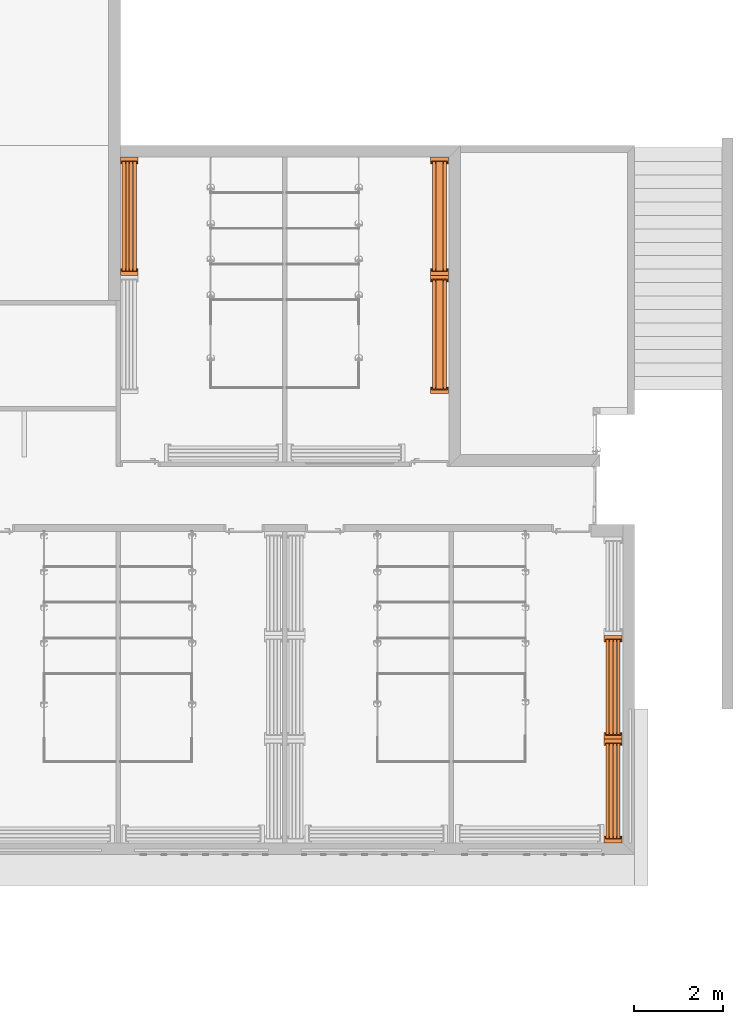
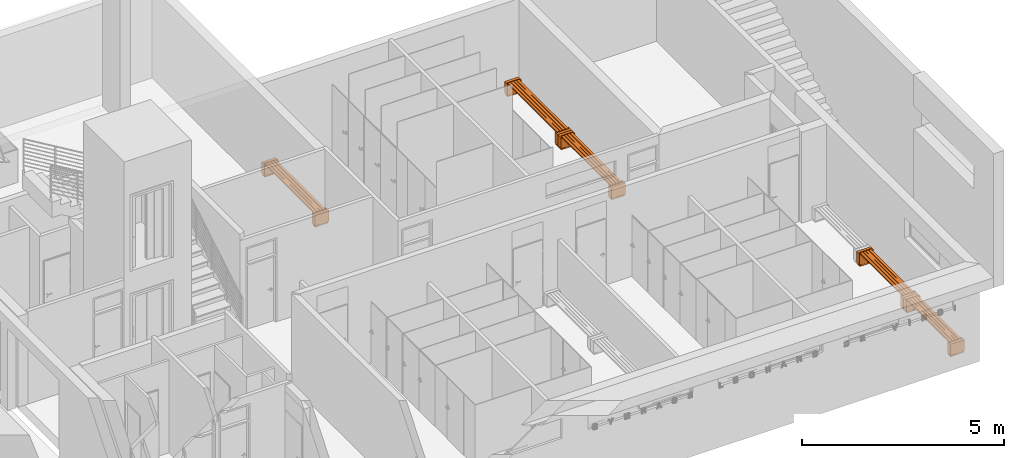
# One storey, part 44 of 45: 5 proxies.
"""IFC2X3 building model written with IfcOpenShell, lengths in metres."""

from ifc_helpers import new_model, entity, si_unit, converted_unit, money_unit, direction, frame, origin_with_axes, place, context, subcontext, project, spatial, faceted_brep, source, transform, mapped, material, type_object, element, save


model = new_model("IFC2X3")

# Units and contexts
model_context = context("Model", 3, precision=1e-05, world=origin_with_axes(), true_north=direction((0.0, 1.0)))
body_context = subcontext(model_context, "Body", "Model", "MODEL_VIEW")
ifc_project = project(units=[si_unit("LENGTHUNIT", "METRE"), si_unit("AREAUNIT", "SQUARE_METRE"), si_unit("VOLUMEUNIT", "CUBIC_METRE"), converted_unit("PLANEANGLEUNIT", "DEGREE", entity("IfcPlaneAngleMeasure", 0.0174532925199), si_unit("PLANEANGLEUNIT", "RADIAN"), dimensions=[0, 0, 0, 0, 0, 0, 0]), si_unit("SOLIDANGLEUNIT", "STERADIAN"), money_unit("EUR"), converted_unit("TIMEUNIT", "Year", entity("IfcTimeMeasure", 31556926.0), si_unit("TIMEUNIT", "SECOND"), dimensions=[0, 0, 0, 0, 0, 0, 0]), si_unit("MASSUNIT", "GRAM"), si_unit("THERMODYNAMICTEMPERATUREUNIT", "DEGREE_CELSIUS"), si_unit("LUMINOUSINTENSITYUNIT", "LUMEN")], contexts=[model_context])

# Site, building, storey
site_placement = place(None, origin_with_axes())
site = spatial("IfcSite", under=ifc_project, at=site_placement, Name="Site", CompositionType="ELEMENT")
building_placement = place(site_placement, origin_with_axes())
building = spatial("IfcBuilding", under=site, at=building_placement, Name="Bâtiment", CompositionType="ELEMENT")
storey_placement = place(building_placement, origin_with_axes())
storey = spatial("IfcBuildingStorey", under=building, at=storey_placement, Name="NIVEAU BAS GYMNASE", CompositionType="ELEMENT", Elevation=0.0)

# Proxies
ifc_material = material(Name="AS_EMPTY")
building_element_proxy_type = type_object("IfcBuildingElementProxyType", Name="Banc public 04 10", PredefinedType="NOTDEFINED")
shared_shape_1 = source(origin_with_axes(), body_context, "Body", "Brep", [
    faceted_brep([(1.148333, -0.185, 0.0), (1.148333, -0.185, 0.05), (1.028333, -0.185, 0.05), (1.028333, -0.185, 0.0), (1.148333, 0.185, 0.0), (1.148333, 0.185, 0.05), (1.028333, 0.185, 0.05), (1.028333, 0.185, 0.0)], [[[0, 1, 2, 3]], [[4, 5, 1, 0]], [[1, 5, 6, 2]], [[3, 2, 6, 7]], [[0, 3, 7, 4]], [[7, 6, 5, 4]]]),
    faceted_brep([(1.163333, -0.2, 0.05), (1.163333, -0.2, 0.35), (1.013333, -0.2, 0.35), (1.013333, -0.2, 0.05), (1.163333, 0.2, 0.05), (1.163333, 0.2, 0.35), (1.013333, 0.2, 0.35), (1.013333, 0.2, 0.05)], [[[0, 1, 2, 3]], [[4, 5, 1, 0]], [[1, 5, 6, 2]], [[3, 2, 6, 7]], [[0, 3, 7, 4]], [[7, 6, 5, 4]]]),
    faceted_brep([(1.163333, -0.2, 0.35), (1.163333, -0.2, 0.39), (1.013333, -0.2, 0.39), (1.013333, -0.2, 0.35), (1.163333, 0.2, 0.35), (1.163333, 0.2, 0.39), (1.013333, 0.2, 0.39), (1.013333, 0.175, 0.39), (1.078333, 0.175, 0.39), (1.078333, -0.175, 0.39), (1.013333, -0.175, 0.39), (1.013333, -0.175, 0.35), (1.078333, -0.175, 0.35), (1.078333, 0.175, 0.35), (1.013333, 0.175, 0.35), (1.013333, 0.2, 0.35)], [[[0, 1, 2, 3]], [[4, 5, 1, 0]], [[1, 5, 6, 7, 8, 9, 10, 2]], [[3, 2, 10, 11]], [[0, 3, 11, 12, 13, 14, 15, 4]], [[15, 6, 5, 4]], [[14, 7, 6, 15]], [[13, 8, 7, 14]], [[12, 9, 8, 13]], [[11, 10, 9, 12]]]),
    faceted_brep([(-1.148333, -0.185, 0.0), (-1.028333, -0.185, 0.0), (-1.028333, -0.185, 0.05), (-1.148333, -0.185, 0.05), (-1.148333, 0.185, 0.0), (-1.028333, 0.185, 0.0), (-1.028333, 0.185, 0.05), (-1.148333, 0.185, 0.05)], [[[0, 1, 2, 3]], [[0, 4, 5, 1]], [[1, 5, 6, 2]], [[3, 2, 6, 7]], [[4, 0, 3, 7]], [[5, 4, 7, 6]]]),
    faceted_brep([(-1.163333, -0.2, 0.05), (-1.013333, -0.2, 0.05), (-1.013333, -0.2, 0.35), (-1.163333, -0.2, 0.35), (-1.163333, 0.2, 0.05), (-1.013333, 0.2, 0.05), (-1.013333, 0.2, 0.35), (-1.163333, 0.2, 0.35)], [[[0, 1, 2, 3]], [[0, 4, 5, 1]], [[1, 5, 6, 2]], [[3, 2, 6, 7]], [[4, 0, 3, 7]], [[5, 4, 7, 6]]]),
    faceted_brep([(-1.163333, -0.2, 0.35), (-1.013333, -0.2, 0.35), (-1.013333, -0.2, 0.39), (-1.163333, -0.2, 0.39), (-1.163333, 0.2, 0.35), (-1.013333, 0.2, 0.35), (-1.013333, 0.175, 0.35), (-1.078333, 0.175, 0.35), (-1.078333, -0.175, 0.35), (-1.013333, -0.175, 0.35), (-1.013333, -0.175, 0.39), (-1.078333, -0.175, 0.39), (-1.078333, 0.175, 0.39), (-1.013333, 0.175, 0.39), (-1.013333, 0.2, 0.39), (-1.163333, 0.2, 0.39)], [[[0, 1, 2, 3]], [[0, 4, 5, 6, 7, 8, 9, 1]], [[1, 9, 10, 2]], [[3, 2, 10, 11, 12, 13, 14, 15]], [[4, 0, 3, 15]], [[5, 4, 15, 14]], [[6, 5, 14, 13]], [[7, 6, 13, 12]], [[8, 7, 12, 11]], [[9, 8, 11, 10]]]),
    faceted_brep([(1.063333, -0.16, 0.35), (1.063333, -0.16, 0.39), (-1.063333, -0.16, 0.39), (-1.063333, -0.16, 0.35), (1.063333, -0.0875, 0.35), (1.063333, -0.0875, 0.39), (-1.063333, -0.0875, 0.39), (-1.063333, -0.0875, 0.35)], [[[0, 1, 2, 3]], [[4, 5, 1, 0]], [[1, 5, 6, 2]], [[3, 2, 6, 7]], [[0, 3, 7, 4]], [[7, 6, 5, 4]]]),
    faceted_brep([(1.063333, -0.0775, 0.35), (1.063333, -0.0775, 0.39), (-1.063333, -0.0775, 0.39), (-1.063333, -0.0775, 0.35), (1.063333, -0.005, 0.35), (1.063333, -0.005, 0.39), (-1.063333, -0.005, 0.39), (-1.063333, -0.005, 0.35)], [[[0, 1, 2, 3]], [[4, 5, 1, 0]], [[1, 5, 6, 2]], [[3, 2, 6, 7]], [[0, 3, 7, 4]], [[7, 6, 5, 4]]]),
    faceted_brep([(1.063333, 0.005, 0.35), (1.063333, 0.005, 0.39), (-1.063333, 0.005, 0.39), (-1.063333, 0.005, 0.35), (1.063333, 0.0775, 0.35), (1.063333, 0.0775, 0.39), (-1.063333, 0.0775, 0.39), (-1.063333, 0.0775, 0.35)], [[[0, 1, 2, 3]], [[4, 5, 1, 0]], [[1, 5, 6, 2]], [[3, 2, 6, 7]], [[0, 3, 7, 4]], [[7, 6, 5, 4]]]),
    faceted_brep([(1.063333, 0.0875, 0.35), (1.063333, 0.0875, 0.39), (-1.063333, 0.0875, 0.39), (-1.063333, 0.0875, 0.35), (1.063333, 0.16, 0.35), (1.063333, 0.16, 0.39), (-1.063333, 0.16, 0.39), (-1.063333, 0.16, 0.35)], [[[0, 1, 2, 3]], [[4, 5, 1, 0]], [[1, 5, 6, 2]], [[3, 2, 6, 7]], [[0, 3, 7, 4]], [[7, 6, 5, 4]]]),
])
for number, where, z_axis, x_axis, name in (
    (1, (66.778457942, 7.29214905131, 0.0), (0.0, 0.0, 1.0), (0.0, -1.0, 0.0), "Obj.-025"),
    (2, (66.778457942, 9.61881571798, 0.0), (0.0, 0.0, 1.0), (0.0, -1.0, 0.0), "Obj.-025"),
):
    element("IfcBuildingElementProxy", number, at=place(storey_placement, frame(where, z_axis=z_axis, x_axis=x_axis)), inside=storey, type_object=building_element_proxy_type, material=ifc_material, Name=name, context=body_context, shape_type="MappedRepresentation", body=[
        mapped(shared_shape_1, transform((0.0, 0.0, 0.0))),
    ])
shared_shape_2 = source(origin_with_axes(), body_context, "Body", "Brep", [
    faceted_brep([(-1.31, -0.185, 0.0), (-1.19, -0.185, 0.0), (-1.19, -0.185, 0.05), (-1.31, -0.185, 0.05), (-1.31, 0.185, 0.0), (-1.19, 0.185, 0.0), (-1.19, 0.185, 0.05), (-1.31, 0.185, 0.05)], [[[0, 1, 2, 3]], [[0, 4, 5, 1]], [[1, 5, 6, 2]], [[3, 2, 6, 7]], [[4, 0, 3, 7]], [[5, 4, 7, 6]]]),
    faceted_brep([(-1.325, -0.2, 0.05), (-1.175, -0.2, 0.05), (-1.175, -0.2, 0.35), (-1.325, -0.2, 0.35), (-1.325, 0.2, 0.05), (-1.175, 0.2, 0.05), (-1.175, 0.2, 0.35), (-1.325, 0.2, 0.35)], [[[0, 1, 2, 3]], [[0, 4, 5, 1]], [[1, 5, 6, 2]], [[3, 2, 6, 7]], [[4, 0, 3, 7]], [[5, 4, 7, 6]]]),
    faceted_brep([(-1.325, -0.2, 0.35), (-1.175, -0.2, 0.35), (-1.175, -0.2, 0.39), (-1.325, -0.2, 0.39), (-1.325, 0.2, 0.35), (-1.175, 0.2, 0.35), (-1.175, 0.175, 0.35), (-1.24, 0.175, 0.35), (-1.24, -0.175, 0.35), (-1.175, -0.175, 0.35), (-1.175, -0.175, 0.39), (-1.24, -0.175, 0.39), (-1.24, 0.175, 0.39), (-1.175, 0.175, 0.39), (-1.175, 0.2, 0.39), (-1.325, 0.2, 0.39)], [[[0, 1, 2, 3]], [[0, 4, 5, 6, 7, 8, 9, 1]], [[1, 9, 10, 2]], [[3, 2, 10, 11, 12, 13, 14, 15]], [[4, 0, 3, 15]], [[5, 4, 15, 14]], [[6, 5, 14, 13]], [[7, 6, 13, 12]], [[8, 7, 12, 11]], [[9, 8, 11, 10]]]),
    faceted_brep([(1.31, -0.185, 0.0), (1.31, -0.185, 0.05), (1.19, -0.185, 0.05), (1.19, -0.185, 0.0), (1.31, 0.185, 0.0), (1.31, 0.185, 0.05), (1.19, 0.185, 0.05), (1.19, 0.185, 0.0)], [[[0, 1, 2, 3]], [[4, 5, 1, 0]], [[1, 5, 6, 2]], [[3, 2, 6, 7]], [[0, 3, 7, 4]], [[7, 6, 5, 4]]]),
    faceted_brep([(1.325, -0.2, 0.05), (1.325, -0.2, 0.35), (1.175, -0.2, 0.35), (1.175, -0.2, 0.05), (1.325, 0.2, 0.05), (1.325, 0.2, 0.35), (1.175, 0.2, 0.35), (1.175, 0.2, 0.05)], [[[0, 1, 2, 3]], [[4, 5, 1, 0]], [[1, 5, 6, 2]], [[3, 2, 6, 7]], [[0, 3, 7, 4]], [[7, 6, 5, 4]]]),
    faceted_brep([(1.325, -0.2, 0.35), (1.325, -0.2, 0.39), (1.175, -0.2, 0.39), (1.175, -0.2, 0.35), (1.325, 0.2, 0.35), (1.325, 0.2, 0.39), (1.175, 0.2, 0.39), (1.175, 0.175, 0.39), (1.24, 0.175, 0.39), (1.24, -0.175, 0.39), (1.175, -0.175, 0.39), (1.175, -0.175, 0.35), (1.24, -0.175, 0.35), (1.24, 0.175, 0.35), (1.175, 0.175, 0.35), (1.175, 0.2, 0.35)], [[[0, 1, 2, 3]], [[4, 5, 1, 0]], [[1, 5, 6, 7, 8, 9, 10, 2]], [[3, 2, 10, 11]], [[0, 3, 11, 12, 13, 14, 15, 4]], [[15, 6, 5, 4]], [[14, 7, 6, 15]], [[13, 8, 7, 14]], [[12, 9, 8, 13]], [[11, 10, 9, 12]]]),
    faceted_brep([(-1.225, -0.16, 0.35), (1.225, -0.16, 0.35), (1.225, -0.16, 0.39), (-1.225, -0.16, 0.39), (-1.225, -0.0875, 0.35), (1.225, -0.0875, 0.35), (1.225, -0.0875, 0.39), (-1.225, -0.0875, 0.39)], [[[0, 1, 2, 3]], [[0, 4, 5, 1]], [[1, 5, 6, 2]], [[3, 2, 6, 7]], [[4, 0, 3, 7]], [[5, 4, 7, 6]]]),
    faceted_brep([(-1.225, -0.0775, 0.35), (1.225, -0.0775, 0.35), (1.225, -0.0775, 0.39), (-1.225, -0.0775, 0.39), (-1.225, -0.005, 0.35), (1.225, -0.005, 0.35), (1.225, -0.005, 0.39), (-1.225, -0.005, 0.39)], [[[0, 1, 2, 3]], [[0, 4, 5, 1]], [[1, 5, 6, 2]], [[3, 2, 6, 7]], [[4, 0, 3, 7]], [[5, 4, 7, 6]]]),
    faceted_brep([(-1.225, 0.005, 0.35), (1.225, 0.005, 0.35), (1.225, 0.005, 0.39), (-1.225, 0.005, 0.39), (-1.225, 0.0775, 0.35), (1.225, 0.0775, 0.35), (1.225, 0.0775, 0.39), (-1.225, 0.0775, 0.39)], [[[0, 1, 2, 3]], [[0, 4, 5, 1]], [[1, 5, 6, 2]], [[3, 2, 6, 7]], [[4, 0, 3, 7]], [[5, 4, 7, 6]]]),
    faceted_brep([(-1.225, 0.0875, 0.35), (1.225, 0.0875, 0.35), (1.225, 0.0875, 0.39), (-1.225, 0.0875, 0.39), (-1.225, 0.16, 0.35), (1.225, 0.16, 0.35), (1.225, 0.16, 0.39), (-1.225, 0.16, 0.39)], [[[0, 1, 2, 3]], [[0, 4, 5, 1]], [[1, 5, 6, 2]], [[3, 2, 6, 7]], [[4, 0, 3, 7]], [[5, 4, 7, 6]]]),
])
proxy_placement = place(storey_placement, frame((55.933457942, 20.173815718, 0.0), z_axis=(0.0, 0.0, 1.0), x_axis=(0.0, 1.0, 0.0)))
element("IfcBuildingElementProxy", 3, at=proxy_placement, inside=storey, type_object=building_element_proxy_type, material=ifc_material, Name="Obj.-025", context=body_context, shape_type="MappedRepresentation", body=[
    mapped(shared_shape_2, transform((0.0, 0.0, 0.0))),
])
shared_shape_3 = source(origin_with_axes(), body_context, "Body", "Brep", [
    faceted_brep([(1.31, -0.185, 0.0), (1.31, -0.185, 0.05), (1.19, -0.185, 0.05), (1.19, -0.185, 0.0), (1.31, 0.185, 0.0), (1.31, 0.185, 0.05), (1.19, 0.185, 0.05), (1.19, 0.185, 0.0)], [[[0, 1, 2, 3]], [[4, 5, 1, 0]], [[1, 5, 6, 2]], [[3, 2, 6, 7]], [[0, 3, 7, 4]], [[7, 6, 5, 4]]]),
    faceted_brep([(1.325, -0.2, 0.05), (1.325, -0.2, 0.35), (1.175, -0.2, 0.35), (1.175, -0.2, 0.05), (1.325, 0.2, 0.05), (1.325, 0.2, 0.35), (1.175, 0.2, 0.35), (1.175, 0.2, 0.05)], [[[0, 1, 2, 3]], [[4, 5, 1, 0]], [[1, 5, 6, 2]], [[3, 2, 6, 7]], [[0, 3, 7, 4]], [[7, 6, 5, 4]]]),
    faceted_brep([(1.325, -0.2, 0.35), (1.325, -0.2, 0.39), (1.175, -0.2, 0.39), (1.175, -0.2, 0.35), (1.325, 0.2, 0.35), (1.325, 0.2, 0.39), (1.175, 0.2, 0.39), (1.175, 0.175, 0.39), (1.24, 0.175, 0.39), (1.24, -0.175, 0.39), (1.175, -0.175, 0.39), (1.175, -0.175, 0.35), (1.24, -0.175, 0.35), (1.24, 0.175, 0.35), (1.175, 0.175, 0.35), (1.175, 0.2, 0.35)], [[[0, 1, 2, 3]], [[4, 5, 1, 0]], [[1, 5, 6, 7, 8, 9, 10, 2]], [[3, 2, 10, 11]], [[0, 3, 11, 12, 13, 14, 15, 4]], [[15, 6, 5, 4]], [[14, 7, 6, 15]], [[13, 8, 7, 14]], [[12, 9, 8, 13]], [[11, 10, 9, 12]]]),
    faceted_brep([(-1.31, -0.185, 0.0), (-1.19, -0.185, 0.0), (-1.19, -0.185, 0.05), (-1.31, -0.185, 0.05), (-1.31, 0.185, 0.0), (-1.19, 0.185, 0.0), (-1.19, 0.185, 0.05), (-1.31, 0.185, 0.05)], [[[0, 1, 2, 3]], [[0, 4, 5, 1]], [[1, 5, 6, 2]], [[3, 2, 6, 7]], [[4, 0, 3, 7]], [[5, 4, 7, 6]]]),
    faceted_brep([(-1.325, -0.2, 0.05), (-1.175, -0.2, 0.05), (-1.175, -0.2, 0.35), (-1.325, -0.2, 0.35), (-1.325, 0.2, 0.05), (-1.175, 0.2, 0.05), (-1.175, 0.2, 0.35), (-1.325, 0.2, 0.35)], [[[0, 1, 2, 3]], [[0, 4, 5, 1]], [[1, 5, 6, 2]], [[3, 2, 6, 7]], [[4, 0, 3, 7]], [[5, 4, 7, 6]]]),
    faceted_brep([(-1.325, -0.2, 0.35), (-1.175, -0.2, 0.35), (-1.175, -0.2, 0.39), (-1.325, -0.2, 0.39), (-1.325, 0.2, 0.35), (-1.175, 0.2, 0.35), (-1.175, 0.175, 0.35), (-1.24, 0.175, 0.35), (-1.24, -0.175, 0.35), (-1.175, -0.175, 0.35), (-1.175, -0.175, 0.39), (-1.24, -0.175, 0.39), (-1.24, 0.175, 0.39), (-1.175, 0.175, 0.39), (-1.175, 0.2, 0.39), (-1.325, 0.2, 0.39)], [[[0, 1, 2, 3]], [[0, 4, 5, 6, 7, 8, 9, 1]], [[1, 9, 10, 2]], [[3, 2, 10, 11, 12, 13, 14, 15]], [[4, 0, 3, 15]], [[5, 4, 15, 14]], [[6, 5, 14, 13]], [[7, 6, 13, 12]], [[8, 7, 12, 11]], [[9, 8, 11, 10]]]),
    faceted_brep([(1.225, -0.16, 0.35), (1.225, -0.16, 0.39), (-1.225, -0.16, 0.39), (-1.225, -0.16, 0.35), (1.225, -0.0875, 0.35), (1.225, -0.0875, 0.39), (-1.225, -0.0875, 0.39), (-1.225, -0.0875, 0.35)], [[[0, 1, 2, 3]], [[4, 5, 1, 0]], [[1, 5, 6, 2]], [[3, 2, 6, 7]], [[0, 3, 7, 4]], [[7, 6, 5, 4]]]),
    faceted_brep([(1.225, -0.0775, 0.35), (1.225, -0.0775, 0.39), (-1.225, -0.0775, 0.39), (-1.225, -0.0775, 0.35), (1.225, -0.005, 0.35), (1.225, -0.005, 0.39), (-1.225, -0.005, 0.39), (-1.225, -0.005, 0.35)], [[[0, 1, 2, 3]], [[4, 5, 1, 0]], [[1, 5, 6, 2]], [[3, 2, 6, 7]], [[0, 3, 7, 4]], [[7, 6, 5, 4]]]),
    faceted_brep([(1.225, 0.005, 0.35), (1.225, 0.005, 0.39), (-1.225, 0.005, 0.39), (-1.225, 0.005, 0.35), (1.225, 0.0775, 0.35), (1.225, 0.0775, 0.39), (-1.225, 0.0775, 0.39), (-1.225, 0.0775, 0.35)], [[[0, 1, 2, 3]], [[4, 5, 1, 0]], [[1, 5, 6, 2]], [[3, 2, 6, 7]], [[0, 3, 7, 4]], [[7, 6, 5, 4]]]),
    faceted_brep([(1.225, 0.0875, 0.35), (1.225, 0.0875, 0.39), (-1.225, 0.0875, 0.39), (-1.225, 0.0875, 0.35), (1.225, 0.16, 0.35), (1.225, 0.16, 0.39), (-1.225, 0.16, 0.39), (-1.225, 0.16, 0.35)], [[[0, 1, 2, 3]], [[4, 5, 1, 0]], [[1, 5, 6, 2]], [[3, 2, 6, 7]], [[0, 3, 7, 4]], [[7, 6, 5, 4]]]),
])
for number, where, z_axis, x_axis, name in (
    (4, (62.8870931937, 20.173815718, 0.0), (0.0, 0.0, 1.0), (0.0, -1.0, 0.0), "Obj.-025"),
    (5, (62.8870931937, 17.523815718, 0.0), (0.0, 0.0, 1.0), (0.0, -1.0, 0.0), "Obj.-025"),
):
    element("IfcBuildingElementProxy", number, at=place(storey_placement, frame(where, z_axis=z_axis, x_axis=x_axis)), inside=storey, type_object=building_element_proxy_type, material=ifc_material, Name=name, context=body_context, shape_type="MappedRepresentation", body=[
        mapped(shared_shape_3, transform((0.0, 0.0, 0.0))),
    ])

save(model, "model.ifc")
